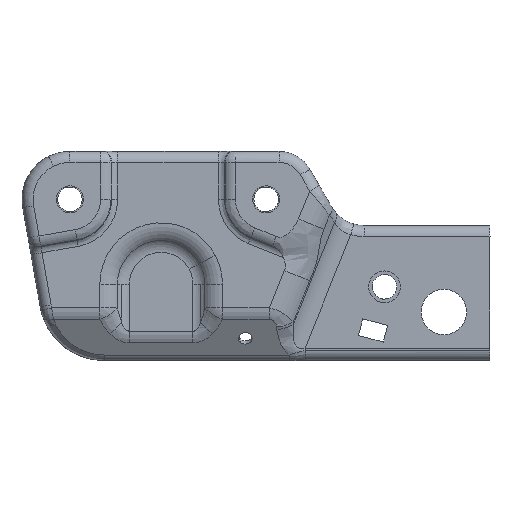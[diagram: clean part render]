
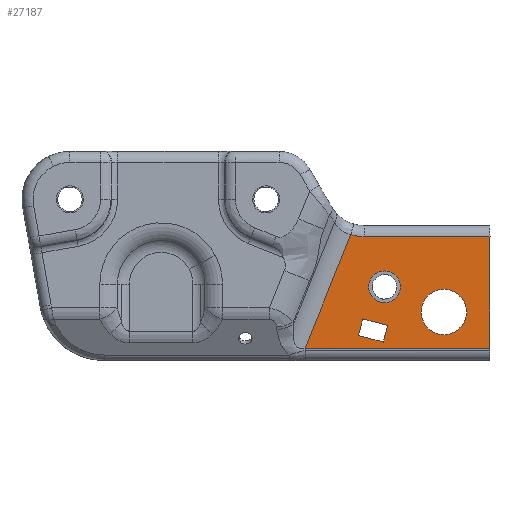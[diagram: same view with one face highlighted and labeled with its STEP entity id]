
A CAD part, front view. The second image highlights one B-rep face of the part: STEP entity #27187.
In plain terms, the highlighted planar face has unit normal (0.001, -1, 0).
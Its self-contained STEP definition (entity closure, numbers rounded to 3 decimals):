
#7404=VECTOR('Line Direction',#7403,1.) ;
#21132=VECTOR('Line Direction',#21131,1.) ;
#21177=VECTOR('Line Direction',#21176,1.) ;
#21203=VECTOR('Line Direction',#21202,1.) ;
#21230=VECTOR('Line Direction',#21229,1.) ;
#21936=VECTOR('Line Direction',#21935,1.) ;
#23715=VECTOR('Line Direction',#23714,1.) ;
#24046=VECTOR('Line Direction',#24045,1.) ;
#7403=DIRECTION('Vector Direction',(-1.,-0.001,0.)) ;
#7427=DIRECTION('Axis2P3D Direction',(0.001,-1.,0.)) ;
#21131=DIRECTION('Vector Direction',(0.967,0.001,-0.256)) ;
#21176=DIRECTION('Vector Direction',(0.256,0.,0.967)) ;
#21202=DIRECTION('Vector Direction',(-0.967,-0.001,0.256)) ;
#21229=DIRECTION('Vector Direction',(-0.256,0.,-0.967)) ;
#21246=DIRECTION('Axis2P3D Direction',(0.001,-1.,0.)) ;
#21320=DIRECTION('Axis2P3D Direction',(0.001,-1.,0.)) ;
#21356=DIRECTION('Axis2P3D Direction',(0.001,-1.,0.)) ;
#21935=DIRECTION('Vector Direction',(0.373,0.,0.928)) ;
#23714=DIRECTION('Vector Direction',(0.,0.,-1.)) ;
#24045=DIRECTION('Vector Direction',(1.,0.001,0.)) ;
#27146=DIRECTION('Axis2P3D Direction',(-0.001,1.,0.)) ;
#27147=DIRECTION('Axis2P3D XDirection',(0.,0.,-1.)) ;
#27158=DIRECTION('Axis2P3D Direction',(-0.001,1.,0.)) ;
#27167=DIRECTION('Axis2P3D Direction',(-0.001,1.,0.)) ;
#7368=CARTESIAN_POINT('Vertex',(771.274,-912.317,379.918)) ;
#7399=CARTESIAN_POINT('Vertex',(776.789,-912.313,379.143)) ;
#7402=CARTESIAN_POINT('Line Origine',(790.347,-912.302,379.143)) ;
#7406=CARTESIAN_POINT('Vertex',(828.021,-912.274,379.141)) ;
#7426=CARTESIAN_POINT('Axis2P3D Location',(776.789,-912.313,399.143)) ;
#21125=CARTESIAN_POINT('Vertex',(774.385,-912.315,338.859)) ;
#21130=CARTESIAN_POINT('Line Origine',(779.46,-912.311,337.512)) ;
#21134=CARTESIAN_POINT('Vertex',(784.534,-912.307,336.166)) ;
#21172=CARTESIAN_POINT('Vertex',(776.18,-912.313,345.624)) ;
#21175=CARTESIAN_POINT('Line Origine',(775.283,-912.314,342.242)) ;
#21196=CARTESIAN_POINT('Vertex',(786.329,-912.306,342.931)) ;
#21201=CARTESIAN_POINT('Line Origine',(781.255,-912.309,344.278)) ;
#21228=CARTESIAN_POINT('Line Origine',(785.432,-912.306,339.549)) ;
#21245=CARTESIAN_POINT('Axis2P3D Location',(785.021,-912.307,358.666)) ;
#21249=CARTESIAN_POINT('Vertex',(785.021,-912.307,352.166)) ;
#21251=CARTESIAN_POINT('Vertex',(791.521,-912.302,358.666)) ;
#21296=CARTESIAN_POINT('Vertex',(778.521,-912.312,358.666)) ;
#21300=CARTESIAN_POINT('Control Point',(778.521,-912.312,358.666)) ;
#21301=CARTESIAN_POINT('Control Point',(778.521,-912.312,356.624)) ;
#21302=CARTESIAN_POINT('Control Point',(779.32,-912.311,354.58)) ;
#21303=CARTESIAN_POINT('Control Point',(780.935,-912.31,352.966)) ;
#21304=CARTESIAN_POINT('Control Point',(782.979,-912.308,352.166)) ;
#21305=CARTESIAN_POINT('Control Point',(785.021,-912.307,352.166)) ;
#21319=CARTESIAN_POINT('Axis2P3D Location',(785.021,-912.307,358.666)) ;
#21323=CARTESIAN_POINT('Vertex',(785.021,-912.307,365.166)) ;
#21355=CARTESIAN_POINT('Axis2P3D Location',(785.021,-912.307,358.666)) ;
#21934=CARTESIAN_POINT('Line Origine',(763.08,-912.323,359.546)) ;
#21938=CARTESIAN_POINT('Vertex',(752.672,-912.331,333.667)) ;
#23705=CARTESIAN_POINT('Vertex',(828.02,-912.274,333.665)) ;
#23713=CARTESIAN_POINT('Line Origine',(828.021,-912.274,356.403)) ;
#24044=CARTESIAN_POINT('Line Origine',(736.733,-912.344,333.668)) ;
#27145=CARTESIAN_POINT('Axis2P3D Location',(1172.861,-912.009,351.816)) ;
#27157=CARTESIAN_POINT('Axis2P3D Location',(809.22,-912.288,348.42)) ;
#27161=CARTESIAN_POINT('Vertex',(799.97,-912.295,348.42)) ;
#27163=CARTESIAN_POINT('Vertex',(818.47,-912.281,348.42)) ;
#27166=CARTESIAN_POINT('Axis2P3D Location',(809.22,-912.288,348.42)) ;
#7428=AXIS2_PLACEMENT_3D('Circle Axis2P3D',#7426,#7427,$) ;
#21247=AXIS2_PLACEMENT_3D('Circle Axis2P3D',#21245,#21246,$) ;
#21321=AXIS2_PLACEMENT_3D('Circle Axis2P3D',#21319,#21320,$) ;
#21357=AXIS2_PLACEMENT_3D('Circle Axis2P3D',#21355,#21356,$) ;
#27148=AXIS2_PLACEMENT_3D('Plane Axis2P3D',#27145,#27146,#27147) ;
#27159=AXIS2_PLACEMENT_3D('Circle Axis2P3D',#27157,#27158,$) ;
#27168=AXIS2_PLACEMENT_3D('Circle Axis2P3D',#27166,#27167,$) ;
#27174=FACE_BOUND('',#27171,.T.) ;
#27180=FACE_BOUND('',#27175,.T.) ;
#27186=FACE_BOUND('',#27181,.T.) ;
#7408=EDGE_CURVE('',#7400,#7407,#7405,.F.) ;
#7430=EDGE_CURVE('',#7369,#7400,#7429,.T.) ;
#21136=EDGE_CURVE('',#21126,#21135,#21133,.T.) ;
#21179=EDGE_CURVE('',#21126,#21173,#21178,.T.) ;
#21205=EDGE_CURVE('',#21197,#21173,#21204,.T.) ;
#21232=EDGE_CURVE('',#21197,#21135,#21231,.T.) ;
#21253=EDGE_CURVE('',#21250,#21252,#21248,.T.) ;
#21306=EDGE_CURVE('',#21297,#21250,#21299,.T.) ;
#21325=EDGE_CURVE('',#21297,#21324,#21322,.F.) ;
#21359=EDGE_CURVE('',#21324,#21252,#21358,.F.) ;
#21940=EDGE_CURVE('',#21939,#7369,#21937,.T.) ;
#23717=EDGE_CURVE('',#7407,#23706,#23716,.T.) ;
#24048=EDGE_CURVE('',#23706,#21939,#24047,.F.) ;
#27165=EDGE_CURVE('',#27162,#27164,#27160,.F.) ;
#27170=EDGE_CURVE('',#27164,#27162,#27169,.F.) ;
#27149=PLANE('Plane',#27148) ;
#27151=ORIENTED_EDGE('',*,*,#7430,.F.) ;
#27152=ORIENTED_EDGE('',*,*,#21940,.F.) ;
#27153=ORIENTED_EDGE('',*,*,#24048,.F.) ;
#27154=ORIENTED_EDGE('',*,*,#23717,.F.) ;
#27155=ORIENTED_EDGE('',*,*,#7408,.F.) ;
#27172=ORIENTED_EDGE('',*,*,#27165,.F.) ;
#27173=ORIENTED_EDGE('',*,*,#27170,.F.) ;
#27176=ORIENTED_EDGE('',*,*,#21306,.F.) ;
#27177=ORIENTED_EDGE('',*,*,#21325,.T.) ;
#27178=ORIENTED_EDGE('',*,*,#21359,.T.) ;
#27179=ORIENTED_EDGE('',*,*,#21253,.F.) ;
#27182=ORIENTED_EDGE('',*,*,#21205,.F.) ;
#27183=ORIENTED_EDGE('',*,*,#21232,.T.) ;
#27184=ORIENTED_EDGE('',*,*,#21136,.F.) ;
#27185=ORIENTED_EDGE('',*,*,#21179,.T.) ;
#7405=LINE('Line',#7402,#7404) ;
#21133=LINE('Line',#21130,#21132) ;
#21178=LINE('Line',#21175,#21177) ;
#21204=LINE('Line',#21201,#21203) ;
#21231=LINE('Line',#21228,#21230) ;
#21937=LINE('Line',#21934,#21936) ;
#23716=LINE('Line',#23713,#23715) ;
#24047=LINE('Line',#24044,#24046) ;
#27187=ADVANCED_FACE('\X2\96F64EF651E04F554F53\X0\',(#27156,#27174,#27180,#27186),#27149,.F.) ;
#7429=CIRCLE('generated circle',#7428,20.) ;
#21248=CIRCLE('generated circle',#21247,6.5) ;
#21322=CIRCLE('generated circle',#21321,6.5) ;
#21358=CIRCLE('generated circle',#21357,6.5) ;
#27160=CIRCLE('generated circle',#27159,9.25) ;
#27169=CIRCLE('generated circle',#27168,9.25) ;
#7369=VERTEX_POINT('',#7368) ;
#7400=VERTEX_POINT('',#7399) ;
#7407=VERTEX_POINT('',#7406) ;
#21126=VERTEX_POINT('',#21125) ;
#21135=VERTEX_POINT('',#21134) ;
#21173=VERTEX_POINT('',#21172) ;
#21197=VERTEX_POINT('',#21196) ;
#21250=VERTEX_POINT('',#21249) ;
#21252=VERTEX_POINT('',#21251) ;
#21297=VERTEX_POINT('',#21296) ;
#21324=VERTEX_POINT('',#21323) ;
#21939=VERTEX_POINT('',#21938) ;
#23706=VERTEX_POINT('',#23705) ;
#27162=VERTEX_POINT('',#27161) ;
#27164=VERTEX_POINT('',#27163) ;
#21299=B_SPLINE_CURVE_WITH_KNOTS('',5,(#21300,#21301,#21302,#21303,#21304,#21305),.UNSPECIFIED.,.F.,.U.,(6,6),(-5.105,5.105),.UNSPECIFIED.) ;
#27150=EDGE_LOOP('',(#27151,#27152,#27153,#27154,#27155)) ;
#27171=EDGE_LOOP('',(#27172,#27173)) ;
#27175=EDGE_LOOP('',(#27176,#27177,#27178,#27179)) ;
#27181=EDGE_LOOP('',(#27182,#27183,#27184,#27185)) ;
#27156=FACE_OUTER_BOUND('',#27150,.T.) ;
